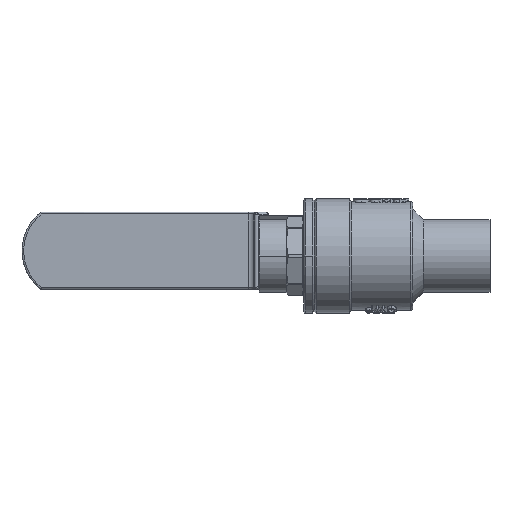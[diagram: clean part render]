
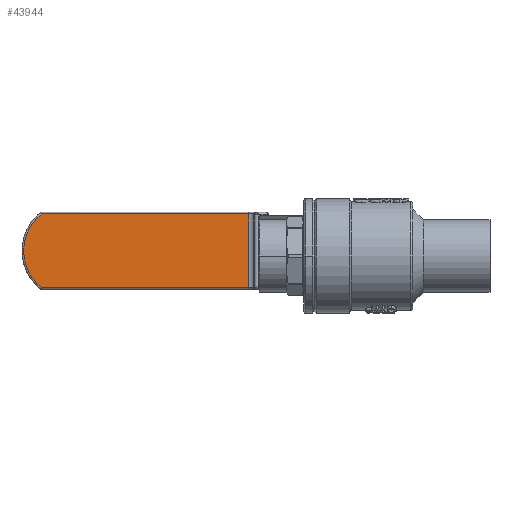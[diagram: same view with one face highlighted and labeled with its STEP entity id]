
A CAD part, front view. The second image highlights one B-rep face of the part: STEP entity #43944.
In plain terms, the highlighted planar face has unit normal (0, -1, 0).
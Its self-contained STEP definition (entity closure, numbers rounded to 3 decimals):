
#1153 = EDGE_CURVE ( 'NONE', #46117, #35575, #39985, .T. ) ;
#5264 = DIRECTION ( 'NONE',  ( 0., 0., 1. ) ) ;
#5899 = LINE ( 'NONE', #36449, #45563 ) ;
#9848 = DIRECTION ( 'NONE',  ( 0., 0., -1. ) ) ;
#11129 = CARTESIAN_POINT ( 'NONE',  ( -63.662, -4., 10. ) ) ;
#12482 = CARTESIAN_POINT ( 'NONE',  ( -4.515, -4., 10.5 ) ) ;
#12492 = CARTESIAN_POINT ( 'NONE',  ( -13., -4., 0. ) ) ;
#21080 = VERTEX_POINT ( 'NONE', #47060 ) ;
#22963 = ORIENTED_EDGE ( 'NONE', *, *, #1153, .T. ) ;
#30039 = DIRECTION ( 'NONE',  ( -1., 0., 0. ) ) ;
#31216 = PLANE ( 'NONE',  #72510 ) ;
#31802 = DIRECTION ( 'NONE',  ( 0., 1., 0. ) ) ;
#32587 = EDGE_CURVE ( 'NONE', #21080, #50326, #77147, .T. ) ;
#32591 = DIRECTION ( 'NONE',  ( 0., 0., 1. ) ) ;
#35469 = ORIENTED_EDGE ( 'NONE', *, *, #45036, .T. ) ;
#35575 = VERTEX_POINT ( 'NONE', #12482 ) ;
#36449 = CARTESIAN_POINT ( 'NONE',  ( -63.662, -4., 10.5 ) ) ;
#38672 = VECTOR ( 'NONE', #43999, 1000. ) ;
#39985 = CIRCLE ( 'NONE', #44731, 13.5 ) ;
#40683 = CARTESIAN_POINT ( 'NONE',  ( -4.515, -4., -10.5 ) ) ;
#43944 = ADVANCED_FACE ( 'NONE', ( #74233 ), #31216, .F. ) ;
#43999 = DIRECTION ( 'NONE',  ( 1., 0., 0. ) ) ;
#44731 = AXIS2_PLACEMENT_3D ( 'NONE', #12492, #59088, #32591 ) ;
#45036 = EDGE_CURVE ( 'NONE', #50326, #46117, #67889, .T. ) ;
#45563 = VECTOR ( 'NONE', #30039, 1000. ) ;
#46117 = VERTEX_POINT ( 'NONE', #40683 ) ;
#47060 = CARTESIAN_POINT ( 'NONE',  ( -63.662, -4., 10.5 ) ) ;
#49765 = CARTESIAN_POINT ( 'NONE',  ( -63.662, -4., 10. ) ) ;
#50065 = VECTOR ( 'NONE', #9848, 1000. ) ;
#50326 = VERTEX_POINT ( 'NONE', #70594 ) ;
#52865 = EDGE_LOOP ( 'NONE', ( #81679, #35469, #22963, #73455 ) ) ;
#59088 = DIRECTION ( 'NONE',  ( 0., -1., 0. ) ) ;
#67889 = LINE ( 'NONE', #71084, #38672 ) ;
#70594 = CARTESIAN_POINT ( 'NONE',  ( -63.662, -4., -10.5 ) ) ;
#71084 = CARTESIAN_POINT ( 'NONE',  ( -63.662, -4., -10.5 ) ) ;
#72510 = AXIS2_PLACEMENT_3D ( 'NONE', #11129, #31802, #5264 ) ;
#73455 = ORIENTED_EDGE ( 'NONE', *, *, #75051, .T. ) ;
#74233 = FACE_OUTER_BOUND ( 'NONE', #52865, .T. ) ;
#75051 = EDGE_CURVE ( 'NONE', #35575, #21080, #5899, .T. ) ;
#77147 = LINE ( 'NONE', #49765, #50065 ) ;
#81679 = ORIENTED_EDGE ( 'NONE', *, *, #32587, .T. ) ;
